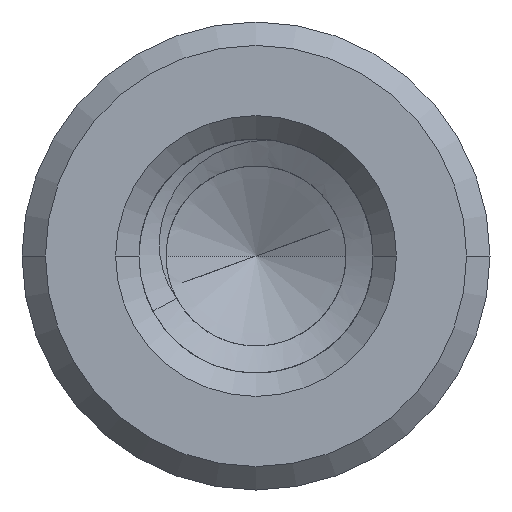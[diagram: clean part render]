
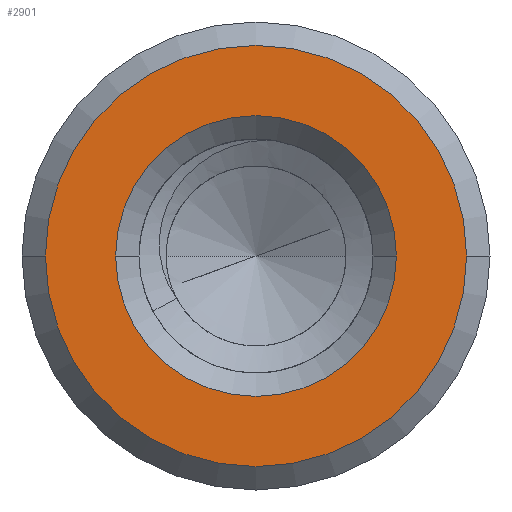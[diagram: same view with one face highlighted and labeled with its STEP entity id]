
A CAD part, front view. The second image highlights one B-rep face of the part: STEP entity #2901.
In plain terms, the highlighted planar face has unit normal (0, -1, 0).
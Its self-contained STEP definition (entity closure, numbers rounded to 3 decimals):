
#1=CARTESIAN_POINT('',(0.,-57.,0.));
#2=DIRECTION('',(0.,1.,0.));
#3=DIRECTION('',(-1.,0.,0.));
#4=AXIS2_PLACEMENT_3D('',#1,#2,#3);
#6=CARTESIAN_POINT('',(0.,-57.,0.));
#7=DIRECTION('',(0.,1.,0.));
#8=DIRECTION('',(1.,0.,0.));
#9=AXIS2_PLACEMENT_3D('',#6,#7,#8);
#11=CARTESIAN_POINT('',(0.,-57.,0.));
#12=DIRECTION('',(0.,-1.,0.));
#13=DIRECTION('',(1.,0.,0.));
#14=AXIS2_PLACEMENT_3D('',#11,#12,#13);
#16=CARTESIAN_POINT('',(0.,-57.,0.));
#17=DIRECTION('',(0.,-1.,0.));
#18=DIRECTION('',(-1.,0.,0.));
#19=AXIS2_PLACEMENT_3D('',#16,#17,#18);
#2860=CARTESIAN_POINT('',(-1.8,-57.,0.));
#2861=CARTESIAN_POINT('',(1.8,-57.,0.));
#2862=VERTEX_POINT('',#2860);
#2863=VERTEX_POINT('',#2861);
#2868=CARTESIAN_POINT('',(2.7,-57.,0.));
#2869=CARTESIAN_POINT('',(-2.7,-57.,0.));
#2870=VERTEX_POINT('',#2868);
#2871=VERTEX_POINT('',#2869);
#2884=CARTESIAN_POINT('',(0.,-57.,0.));
#2885=DIRECTION('',(0.,1.,0.));
#2886=DIRECTION('',(1.,0.,0.));
#2887=AXIS2_PLACEMENT_3D('',#2884,#2885,#2886);
#2888=PLANE('',#2887);
#2890=ORIENTED_EDGE('',*,*,#2889,.F.);
#2892=ORIENTED_EDGE('',*,*,#2891,.F.);
#2893=EDGE_LOOP('',(#2890,#2892));
#2894=FACE_OUTER_BOUND('',#2893,.F.);
#2896=ORIENTED_EDGE('',*,*,#2895,.F.);
#2898=ORIENTED_EDGE('',*,*,#2897,.F.);
#2899=EDGE_LOOP('',(#2896,#2898));
#2900=FACE_BOUND('',#2899,.F.);
#2901=ADVANCED_FACE('',(#2894,#2900),#2888,.F.);
#5=CIRCLE('',#4,1.8);
#10=CIRCLE('',#9,1.8);
#15=CIRCLE('',#14,2.7);
#20=CIRCLE('',#19,2.7);
#2889=EDGE_CURVE('',#2870,#2871,#15,.T.);
#2891=EDGE_CURVE('',#2871,#2870,#20,.T.);
#2895=EDGE_CURVE('',#2862,#2863,#5,.T.);
#2897=EDGE_CURVE('',#2863,#2862,#10,.T.);
